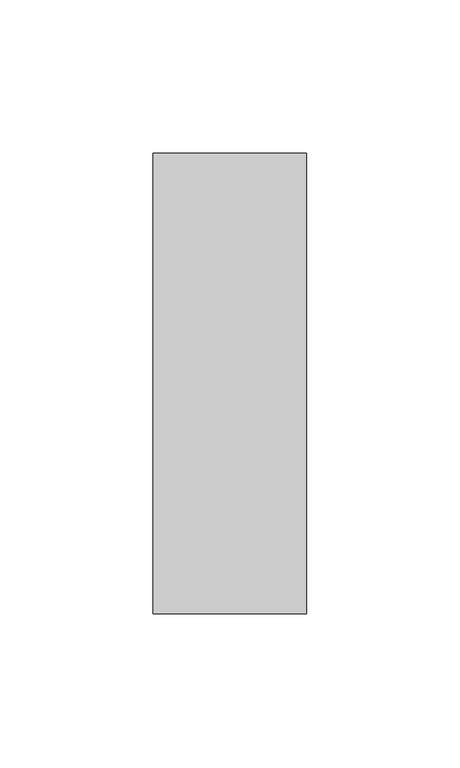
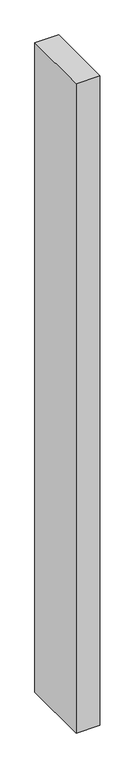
"""IFC4 building model written with IfcOpenShell, lengths in millimetres: member geometry, Прямоугольный импост : 50 x 150 мм."""

import ifcopenshell
import ifcopenshell.guid

model = None  # the IFC model being written
_history = None  # IfcOwnerHistory: only IFC2X3 demands one
_inside = {}  # id of a spatial element -> (the spatial element, [elements in it])
_under = {}  # id of a project, library or spatial element -> (it, [spatial elements below it])
_declared = {}  # id of a project -> (the project, [libraries it declares])
_typed = {}  # id of a type object -> (the type object, [elements of that type])
_made_of = {}  # id of a material, layer set ... -> (it, [elements and type objects made of it])


def new_model(schema):
    """Start an empty IFC model of exactly this schema.

    Asked for "IFC4X3", IfcOpenShell would pick the latest addendum, in which some entities
    have other attributes; the version numbers below select the first issue.
    IFC2X3 requires an IfcOwnerHistory on every rooted entity: one is made here for all.
    """
    global model, _history
    if schema == "IFC4X3":
        model = ifcopenshell.file(schema_version=(4, 3, 0, 0))
    else:
        model = ifcopenshell.file(schema=schema)
    _inside.clear()
    _under.clear()
    _declared.clear()
    _typed.clear()
    _made_of.clear()
    _history = None
    if model.schema == "IFC2X3":
        org = make("IfcOrganization", Name="unknown")
        user = make(
            "IfcPersonAndOrganization",
            ThePerson=make("IfcPerson", FamilyName="unknown"),
            TheOrganization=org,
        )
        app = make(
            "IfcApplication",
            ApplicationDeveloper=org,
            Version="unknown",
            ApplicationFullName="unknown",
            ApplicationIdentifier="unknown",
        )
        _history = make(
            "IfcOwnerHistory",
            OwningUser=user,
            OwningApplication=app,
            ChangeAction="ADDED",
            CreationDate=0,
        )
    return model


def make(cls, **values):
    """One entity of the class cls with the attributes given. An attribute that is None is left unset."""
    return model.create_entity(
        cls, **{name: value for name, value in values.items() if value is not None}
    )


def rooted(cls, **values):
    """An entity with a GlobalId (a new one), such as an element, a storey or a relation."""
    return make(cls, GlobalId=ifcopenshell.guid.new(), OwnerHistory=_history, **values)


def si_unit(unit_type, name, prefix=None):
    """IfcSIUnit, for example si_unit("LENGTHUNIT", "METRE", prefix="MILLI")."""
    return make("IfcSIUnit", UnitType=unit_type, Prefix=prefix, Name=name)


def assignment(units):
    """IfcUnitAssignment: the units of a project."""
    return None if units is None else make("IfcUnitAssignment", Units=units)


def point(xyz):
    """IfcCartesianPoint."""
    return None if xyz is None else make("IfcCartesianPoint", Coordinates=xyz)


def direction(xyz):
    """IfcDirection."""
    return None if xyz is None else make("IfcDirection", DirectionRatios=xyz)


def frame(location, z_axis=None, x_axis=None):
    """IfcAxis2Placement3D, a coordinate frame: its origin and axes. An axis left out is left unset."""
    return make(
        "IfcAxis2Placement3D",
        Location=point(location),
        Axis=direction(z_axis),
        RefDirection=direction(x_axis),
    )


def origin():
    """The frame at (0, 0, 0) with its axes left unset."""
    return frame((0.0, 0.0, 0.0))


def place(relative_to, where):
    """IfcLocalPlacement: puts the frame where relative to a parent placement (None: the world)."""
    return make(
        "IfcLocalPlacement", PlacementRelTo=relative_to, RelativePlacement=where
    )


def context(
    kind, dimensions, precision=None, world=None, true_north=None, identifier=None
):
    """IfcGeometricRepresentationContext, for example the 3D "Model" context."""
    return make(
        "IfcGeometricRepresentationContext",
        ContextIdentifier=identifier,
        ContextType=kind,
        CoordinateSpaceDimension=dimensions,
        Precision=precision,
        WorldCoordinateSystem=world,
        TrueNorth=true_north,
    )


def project(units=None, contexts=None):
    """IfcProject with its units and contexts."""
    return rooted(
        "IfcProject",
        Name="project",
        RepresentationContexts=contexts,
        UnitsInContext=assignment(units),
    )


def spatial(cls, under=None, at=None, **own):
    """A site, building, storey or space (cls), placed at a placement, below another one or the project."""
    s = rooted(cls, ObjectPlacement=at, **own)
    if under is not None:
        _under.setdefault(under.id(), (under, []))[1].append(s)
    return s


def polyline(points):
    """IfcPolyline through the points."""
    return make("IfcPolyline", Points=[point(p) for p in points])


def outline(outer, holes=None, kind="AREA"):
    """IfcArbitraryClosedProfileDef: a profile drawn as a closed curve; with holes, ...WithVoids."""
    if holes is None:
        return make("IfcArbitraryClosedProfileDef", ProfileType=kind, OuterCurve=outer)
    return make(
        "IfcArbitraryProfileDefWithVoids",
        ProfileType=kind,
        OuterCurve=outer,
        InnerCurves=holes,
    )


def extrude(swept, where, along, depth):
    """IfcExtrudedAreaSolid: the profile swept, set in the frame where, extruded along a direction by depth."""
    return make(
        "IfcExtrudedAreaSolid",
        SweptArea=swept,
        Position=where,
        ExtrudedDirection=direction(along),
        Depth=depth,
    )


def shape(context_of_items, identifier, shape_type, items):
    """IfcShapeRepresentation: the items that make up one representation, for example the "Body"."""
    return make(
        "IfcShapeRepresentation",
        ContextOfItems=context_of_items,
        RepresentationIdentifier=identifier,
        RepresentationType=shape_type,
        Items=items,
    )


def source(mapping_origin, context_of_items, identifier, shape_type, items):
    """IfcRepresentationMap: a shape defined once, which mapped items show again and again."""
    return make(
        "IfcRepresentationMap",
        MappingOrigin=mapping_origin,
        MappedRepresentation=shape(context_of_items, identifier, shape_type, items),
    )


def transform(
    local_origin,
    x_axis=None,
    y_axis=None,
    z_axis=None,
    scale=None,
    scale2=None,
    scale3=None,
    uniform=True,
):
    """IfcCartesianTransformationOperator3D, or its non-uniform kind. x_axis, y_axis, z_axis: its Axis1, 2, 3."""
    if uniform:
        return make(
            "IfcCartesianTransformationOperator3D",
            Axis1=direction(x_axis),
            Axis2=direction(y_axis),
            LocalOrigin=point(local_origin),
            Scale=scale,
            Axis3=direction(z_axis),
        )
    return make(
        "IfcCartesianTransformationOperator3DnonUniform",
        Axis1=direction(x_axis),
        Axis2=direction(y_axis),
        LocalOrigin=point(local_origin),
        Scale=scale,
        Axis3=direction(z_axis),
        Scale2=scale2,
        Scale3=scale3,
    )


def mapped(mapping_source, mapping_target):
    """IfcMappedItem: shows the shape of a source again, moved by a transform."""
    return make(
        "IfcMappedItem", MappingSource=mapping_source, MappingTarget=mapping_target
    )


def made_of(thing, what):
    """Note that an element or type object is made of a material, layer set ...; save() writes the relation."""
    if what is not None:
        _made_of.setdefault(what.id(), (what, []))[1].append(thing)
    return thing


def element(
    cls,
    number,
    at=None,
    inside=None,
    cuts=None,
    type_object=None,
    material=None,
    context=None,
    identifier="Body",
    shape_type=None,
    held_by="IfcProductDefinitionShape",
    body=None,
    shapes=None,
    **own,
):
    """One element of the class cls, such as IfcWall. Its Tag is "e" and its number.

    at: its placement. inside: the storey or other place that contains it. cuts: it is an
    opening in that element (IfcRelVoidsElement). A single representation is given by context,
    identifier, shape_type and body (its items); several are given by shapes. held_by: the class
    of the entity that holds the representations. save() writes the other relations.
    """
    e = rooted(cls, Tag="e%d" % number, ObjectPlacement=at, **own)
    if body is not None:
        shapes = [shape(context, identifier, shape_type, body)]
    if shapes is not None:
        e.Representation = make(held_by, Representations=shapes)
    if inside is not None:
        _inside.setdefault(inside.id(), (inside, []))[1].append(e)
    if cuts is not None:
        rooted(
            "IfcRelVoidsElement", RelatingBuildingElement=cuts, RelatedOpeningElement=e
        )
    if type_object is not None:
        _typed.setdefault(type_object.id(), (type_object, []))[1].append(e)
    return made_of(e, material)


def aggregate(whole, parts):
    """IfcRelAggregates: a whole, such as a stair, and the parts it consists of."""
    return rooted("IfcRelAggregates", RelatingObject=whole, RelatedObjects=parts)


def save(model, path):
    """Write the relations noted so far, then the file.

    IfcRelAggregates (storeys below a building ...), IfcRelContainedInSpatialStructure (elements
    in a storey), IfcRelDefinesByType, IfcRelAssociatesMaterial and IfcRelDeclares: one each for
    every whole, place, type object, material and project.
    """
    for whole, parts in _under.values():
        aggregate(whole, parts)
    for where, things in _inside.values():
        rooted(
            "IfcRelContainedInSpatialStructure",
            RelatedElements=things,
            RelatingStructure=where,
        )
    for kind, things in _typed.values():
        rooted("IfcRelDefinesByType", RelatedObjects=things, RelatingType=kind)
    for what, things in _made_of.values():
        rooted("IfcRelAssociatesMaterial", RelatedObjects=things, RelatingMaterial=what)
    for by, libraries in _declared.values():
        rooted("IfcRelDeclares", RelatingContext=by, RelatedDefinitions=libraries)
    model.write(path)


def member_fa98f32d(model_context):
    return source(origin(), model_context, "Body", "SweptSolid", [
        extrude(outline(polyline([(25.0, 75.0), (25.0, -75.0), (-25.0, -75.0), (-25.0, 75.0), (25.0, 75.0)])), frame((0.0, 0.0, -1444.6667248), z_axis=(0.0, 0.0, 1.0), x_axis=(1.0, 0.0, 0.0)), (0.0, 0.0, 1.0), 1444.6667248),
    ])


if __name__ == "__main__":
    model = new_model("IFC4")
    model_context = context("Model", 3, world=origin())
    ifc_project = project(units=[si_unit("LENGTHUNIT", "METRE", prefix="MILLI")], contexts=[model_context])
    site = spatial("IfcSite", under=ifc_project)
    building = spatial("IfcBuilding", under=site)
    placement = place(None, origin())
    member_shape = member_fa98f32d(model_context)
    element("IfcMember", 1, ObjectType="Прямоугольный импост : 50 x 150 мм", at=placement, inside=building, context=model_context, shape_type="MappedRepresentation", body=[
        mapped(member_shape, transform((0.0, 0.0, 0.0), x_axis=(1.0, 0.0, 0.0), y_axis=(0.0, 1.0, 0.0), z_axis=(0.0, 0.0, 1.0))),
    ])
    save(model, "model.ifc")
